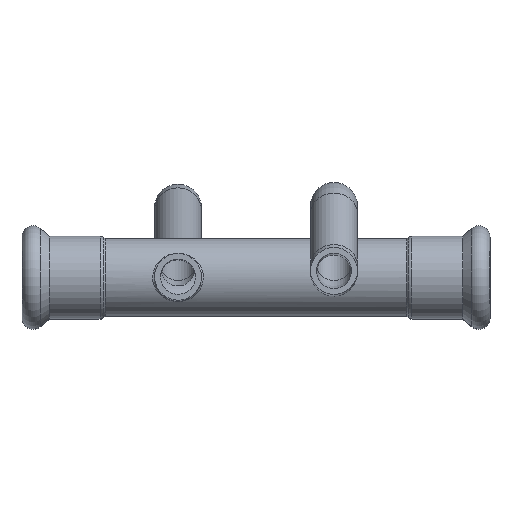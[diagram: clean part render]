
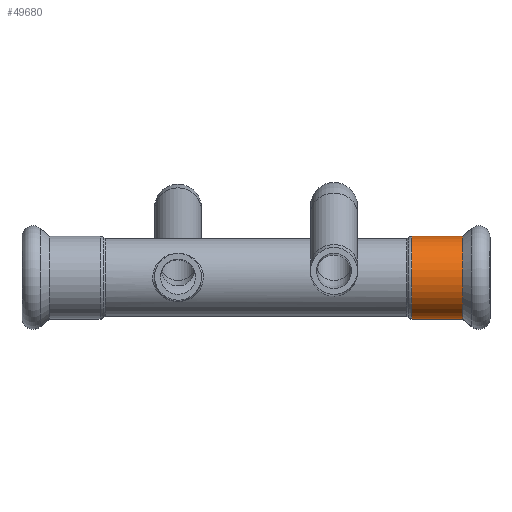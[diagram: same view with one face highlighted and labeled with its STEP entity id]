
A CAD part, top view. The second image highlights one B-rep face of the part: STEP entity #49680.
In plain terms, the highlighted cylindrical face has radius 10.625 mm (diameter 21.25 mm), a partial arc.
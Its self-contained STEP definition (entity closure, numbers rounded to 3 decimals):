
#4270=CARTESIAN_POINT('',(12.826,91.66,0.));
#4280=VERTEX_POINT('',#4270);
#4370=CARTESIAN_POINT('',(12.826,112.91,0.));
#4380=VERTEX_POINT('',#4370);
#4410=CARTESIAN_POINT('',(12.826,102.285,0.));
#4420=DIRECTION('',(1.,0.,0.));
#4430=DIRECTION('',(0.,-1.,-0.));
#4440=AXIS2_PLACEMENT_3D('',#4410,#4420,#4430);
#4450=CIRCLE('',#4440,10.625);
#4510=CARTESIAN_POINT('',(19.318,102.285,0.));
#4520=DIRECTION('',(1.,0.,0.));
#4530=DIRECTION('',(-0.,-1.,-0.));
#4540=AXIS2_PLACEMENT_3D('',#4510,#4520,#4530);
#4550=CYLINDRICAL_SURFACE('',#4540,10.625);
#4560=CARTESIAN_POINT('',(19.318,91.66,0.));
#4570=DIRECTION('',(1.,0.,0.));
#4580=VECTOR('',#4570,1.);
#4590=LINE('',#4560,#4580);
#4600=CARTESIAN_POINT('',(25.81,91.66,0.));
#4610=VERTEX_POINT('',#4600);
#4620=EDGE_CURVE('',#4280,#4610,#4590,.T.);
#4650=CARTESIAN_POINT('',(19.318,112.91,
0.));
#4660=DIRECTION('',(1.,0.,0.));
#4670=VECTOR('',#4660,1.);
#4680=LINE('',#4650,#4670);
#4690=CARTESIAN_POINT('',(25.81,112.91,
0.));
#4700=VERTEX_POINT('',#4690);
#4710=EDGE_CURVE('',#4380,#4700,#4680,.T.);
#4730=CARTESIAN_POINT('',(25.81,102.285,0.));
#4740=DIRECTION('',(1.,0.,0.));
#4750=DIRECTION('',(0.,-1.,-0.));
#4760=AXIS2_PLACEMENT_3D('',#4730,#4740,#4750);
#4770=CIRCLE('',#4760,10.625);
#49600=EDGE_CURVE('',#4610,#4700,#4770,.T.);
#49610=ORIENTED_EDGE('',*,*,#49600,.F.);
#49620=ORIENTED_EDGE('',*,*,#4710,.T.);
#49630=EDGE_CURVE('',#4280,#4380,#4450,.T.);
#49640=ORIENTED_EDGE('',*,*,#49630,.T.);
#49650=ORIENTED_EDGE('',*,*,#4620,.F.);
#49660=EDGE_LOOP('',(#49650,#49640,#49620,#49610));
#49670=FACE_OUTER_BOUND('',#49660,.T.);
#49680=ADVANCED_FACE('',(#49670),#4550,.T.);
